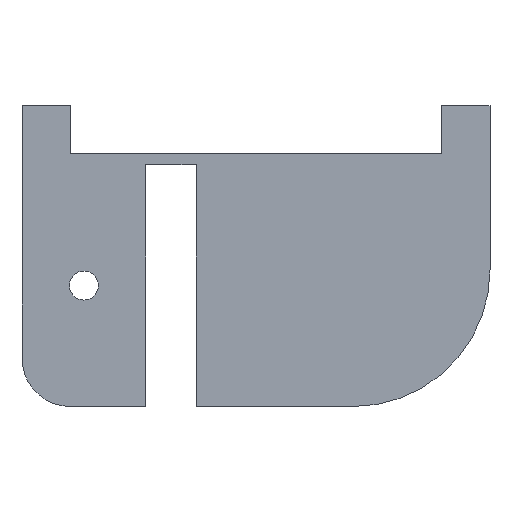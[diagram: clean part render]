
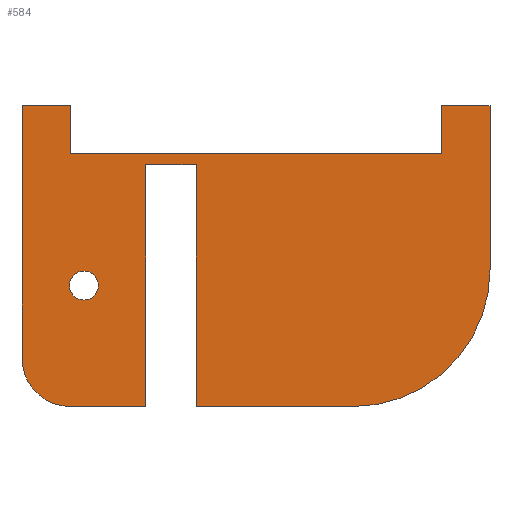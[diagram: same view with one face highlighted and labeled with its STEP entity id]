
A CAD part, front view. The second image highlights one B-rep face of the part: STEP entity #584.
In plain terms, the highlighted planar face has unit normal (0, -1, 0).
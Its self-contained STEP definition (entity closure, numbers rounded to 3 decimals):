
#57=CARTESIAN_POINT('Axis2P3D Location',(113.133,178.875,357.154)) ;
#61=CARTESIAN_POINT('Vertex',(141.381,178.875,357.154)) ;
#63=CARTESIAN_POINT('Vertex',(113.133,178.875,328.906)) ;
#97=CARTESIAN_POINT('Line Origine',(96.866,178.875,328.906)) ;
#101=CARTESIAN_POINT('Vertex',(80.6,178.875,328.906)) ;
#128=CARTESIAN_POINT('Line Origine',(80.6,178.875,353.906)) ;
#132=CARTESIAN_POINT('Vertex',(80.6,178.875,378.906)) ;
#159=CARTESIAN_POINT('Line Origine',(75.4,178.875,378.906)) ;
#163=CARTESIAN_POINT('Vertex',(70.2,178.875,378.906)) ;
#190=CARTESIAN_POINT('Line Origine',(70.2,178.875,353.906)) ;
#194=CARTESIAN_POINT('Vertex',(70.2,178.875,328.906)) ;
#216=CARTESIAN_POINT('Line Origine',(62.4,178.875,328.906)) ;
#220=CARTESIAN_POINT('Vertex',(54.6,178.875,328.906)) ;
#247=CARTESIAN_POINT('Axis2P3D Location',(54.6,178.875,338.906)) ;
#251=CARTESIAN_POINT('Vertex',(44.6,178.875,338.906)) ;
#278=CARTESIAN_POINT('Line Origine',(44.6,178.875,365.027)) ;
#282=CARTESIAN_POINT('Vertex',(44.6,178.875,391.147)) ;
#309=CARTESIAN_POINT('Line Origine',(49.6,178.875,391.147)) ;
#313=CARTESIAN_POINT('Vertex',(54.6,178.875,391.147)) ;
#340=CARTESIAN_POINT('Line Origine',(54.6,178.875,386.147)) ;
#344=CARTESIAN_POINT('Vertex',(54.6,178.875,381.147)) ;
#371=CARTESIAN_POINT('Line Origine',(92.99,178.875,381.147)) ;
#375=CARTESIAN_POINT('Vertex',(131.381,178.875,381.147)) ;
#402=CARTESIAN_POINT('Line Origine',(131.381,178.875,386.147)) ;
#406=CARTESIAN_POINT('Vertex',(131.381,178.875,391.147)) ;
#428=CARTESIAN_POINT('Line Origine',(136.381,178.875,391.147)) ;
#432=CARTESIAN_POINT('Vertex',(141.381,178.875,391.147)) ;
#459=CARTESIAN_POINT('Line Origine',(141.381,178.875,374.15)) ;
#487=CARTESIAN_POINT('Vertex',(54.4,178.875,353.906)) ;
#501=CARTESIAN_POINT('Vertex',(60.4,178.875,353.906)) ;
#504=CARTESIAN_POINT('Axis2P3D Location',(57.4,178.875,353.906)) ;
#521=CARTESIAN_POINT('Axis2P3D Location',(57.4,178.875,353.906)) ;
#559=CARTESIAN_POINT('Axis2P3D Location',(0.,178.875,0.)) ;
#58=DIRECTION('Axis2P3D Direction',(0.,1.,0.)) ;
#98=DIRECTION('Vector Direction',(-1.,0.,0.)) ;
#129=DIRECTION('Vector Direction',(0.,0.,1.)) ;
#160=DIRECTION('Vector Direction',(-1.,0.,0.)) ;
#191=DIRECTION('Vector Direction',(0.,0.,-1.)) ;
#217=DIRECTION('Vector Direction',(-1.,0.,0.)) ;
#248=DIRECTION('Axis2P3D Direction',(0.,1.,0.)) ;
#279=DIRECTION('Vector Direction',(0.,0.,1.)) ;
#310=DIRECTION('Vector Direction',(1.,0.,0.)) ;
#341=DIRECTION('Vector Direction',(0.,0.,-1.)) ;
#372=DIRECTION('Vector Direction',(1.,0.,0.)) ;
#403=DIRECTION('Vector Direction',(0.,0.,1.)) ;
#429=DIRECTION('Vector Direction',(1.,0.,0.)) ;
#460=DIRECTION('Vector Direction',(0.,0.,-1.)) ;
#505=DIRECTION('Axis2P3D Direction',(0.,1.,0.)) ;
#522=DIRECTION('Axis2P3D Direction',(0.,1.,0.)) ;
#560=DIRECTION('Axis2P3D Direction',(0.,1.,0.)) ;
#561=DIRECTION('Axis2P3D XDirection',(-1.,0.,0.)) ;
#59=AXIS2_PLACEMENT_3D('Circle Axis2P3D',#57,#58,$) ;
#249=AXIS2_PLACEMENT_3D('Circle Axis2P3D',#247,#248,$) ;
#506=AXIS2_PLACEMENT_3D('Circle Axis2P3D',#504,#505,$) ;
#523=AXIS2_PLACEMENT_3D('Circle Axis2P3D',#521,#522,$) ;
#562=AXIS2_PLACEMENT_3D('Plane Axis2P3D',#559,#560,#561) ;
#565=ORIENTED_EDGE('',*,*,#463,.F.) ;
#566=ORIENTED_EDGE('',*,*,#434,.F.) ;
#567=ORIENTED_EDGE('',*,*,#408,.F.) ;
#568=ORIENTED_EDGE('',*,*,#377,.F.) ;
#569=ORIENTED_EDGE('',*,*,#346,.F.) ;
#570=ORIENTED_EDGE('',*,*,#315,.F.) ;
#571=ORIENTED_EDGE('',*,*,#284,.F.) ;
#572=ORIENTED_EDGE('',*,*,#253,.F.) ;
#573=ORIENTED_EDGE('',*,*,#222,.F.) ;
#574=ORIENTED_EDGE('',*,*,#196,.F.) ;
#575=ORIENTED_EDGE('',*,*,#165,.F.) ;
#576=ORIENTED_EDGE('',*,*,#134,.F.) ;
#577=ORIENTED_EDGE('',*,*,#103,.F.) ;
#578=ORIENTED_EDGE('',*,*,#65,.F.) ;
#581=ORIENTED_EDGE('',*,*,#525,.T.) ;
#582=ORIENTED_EDGE('',*,*,#508,.T.) ;
#583=FACE_BOUND('',#580,.T.) ;
#99=VECTOR('Line Direction',#98,1.) ;
#130=VECTOR('Line Direction',#129,1.) ;
#161=VECTOR('Line Direction',#160,1.) ;
#192=VECTOR('Line Direction',#191,1.) ;
#218=VECTOR('Line Direction',#217,1.) ;
#280=VECTOR('Line Direction',#279,1.) ;
#311=VECTOR('Line Direction',#310,1.) ;
#342=VECTOR('Line Direction',#341,1.) ;
#373=VECTOR('Line Direction',#372,1.) ;
#404=VECTOR('Line Direction',#403,1.) ;
#430=VECTOR('Line Direction',#429,1.) ;
#461=VECTOR('Line Direction',#460,1.) ;
#584=ADVANCED_FACE('Body.2',(#579,#583),#563,.F.) ;
#60=CIRCLE('generated circle',#59,28.248) ;
#250=CIRCLE('generated circle',#249,10.) ;
#507=CIRCLE('generated circle',#506,3.) ;
#524=CIRCLE('generated circle',#523,3.) ;
#65=EDGE_CURVE('',#62,#64,#60,.T.) ;
#103=EDGE_CURVE('',#64,#102,#100,.T.) ;
#134=EDGE_CURVE('',#102,#133,#131,.T.) ;
#165=EDGE_CURVE('',#133,#164,#162,.T.) ;
#196=EDGE_CURVE('',#164,#195,#193,.T.) ;
#222=EDGE_CURVE('',#195,#221,#219,.T.) ;
#253=EDGE_CURVE('',#221,#252,#250,.T.) ;
#284=EDGE_CURVE('',#252,#283,#281,.T.) ;
#315=EDGE_CURVE('',#283,#314,#312,.T.) ;
#346=EDGE_CURVE('',#314,#345,#343,.T.) ;
#377=EDGE_CURVE('',#345,#376,#374,.T.) ;
#408=EDGE_CURVE('',#376,#407,#405,.T.) ;
#434=EDGE_CURVE('',#407,#433,#431,.T.) ;
#463=EDGE_CURVE('',#433,#62,#462,.T.) ;
#508=EDGE_CURVE('',#488,#502,#507,.T.) ;
#525=EDGE_CURVE('',#502,#488,#524,.T.) ;
#564=EDGE_LOOP('',(#565,#566,#567,#568,#569,#570,#571,#572,#573,#574,#575,#576,#577,#578)) ;
#580=EDGE_LOOP('',(#581,#582)) ;
#579=FACE_OUTER_BOUND('',#564,.T.) ;
#100=LINE('Line',#97,#99) ;
#131=LINE('Line',#128,#130) ;
#162=LINE('Line',#159,#161) ;
#193=LINE('Line',#190,#192) ;
#219=LINE('Line',#216,#218) ;
#281=LINE('Line',#278,#280) ;
#312=LINE('Line',#309,#311) ;
#343=LINE('Line',#340,#342) ;
#374=LINE('Line',#371,#373) ;
#405=LINE('Line',#402,#404) ;
#431=LINE('Line',#428,#430) ;
#462=LINE('Line',#459,#461) ;
#563=PLANE('Plane',#562) ;
#62=VERTEX_POINT('',#61) ;
#64=VERTEX_POINT('',#63) ;
#102=VERTEX_POINT('',#101) ;
#133=VERTEX_POINT('',#132) ;
#164=VERTEX_POINT('',#163) ;
#195=VERTEX_POINT('',#194) ;
#221=VERTEX_POINT('',#220) ;
#252=VERTEX_POINT('',#251) ;
#283=VERTEX_POINT('',#282) ;
#314=VERTEX_POINT('',#313) ;
#345=VERTEX_POINT('',#344) ;
#376=VERTEX_POINT('',#375) ;
#407=VERTEX_POINT('',#406) ;
#433=VERTEX_POINT('',#432) ;
#488=VERTEX_POINT('',#487) ;
#502=VERTEX_POINT('',#501) ;
